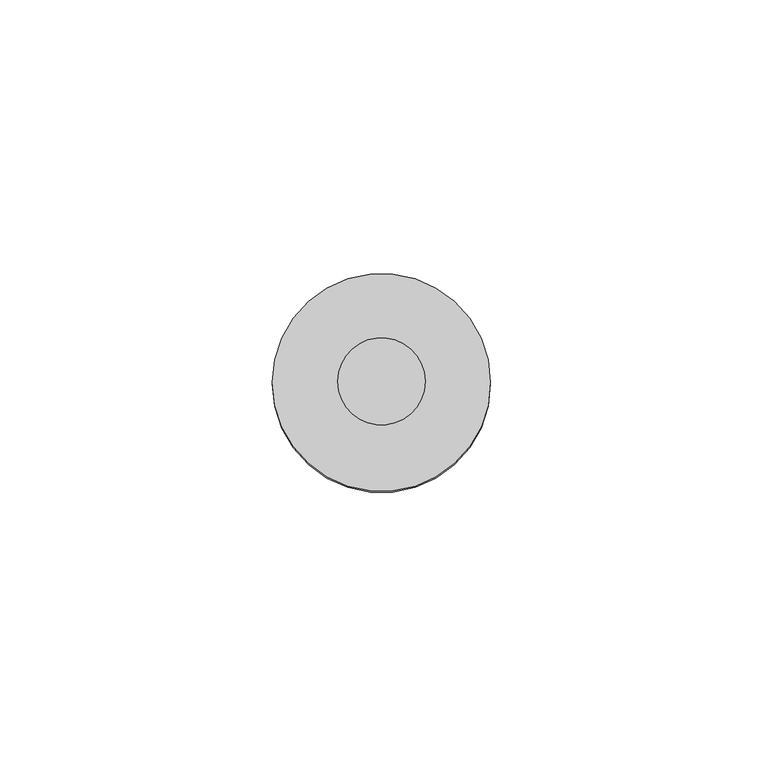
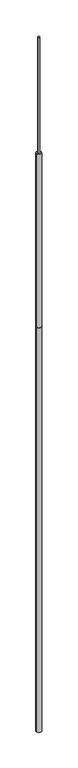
"""IFC4 building model written with IfcOpenShell, lengths in millimetres: proxy geometry, КНС_МачтаИзолированнаяМолниеприемная_DKC : NL6000HV_Нержавеющая сталь_6м."""

from ifc_helpers import new_model, si_unit, point, frame, origin, origin_with_axes, origin_2d, place, context, project, spatial, circle_curve, trimmed, segment, composite_curve, outline, extrude, source, transform, mapped, element, save


def security_devices_16bc7795(model_context):
    return source(origin(), model_context, "Body", "SweptSolid", [
        extrude(outline(composite_curve([segment(trimmed(circle_curve(origin_2d(), 8.0), [point((-8.0, 0.0))], [point((8.0, 0.0))], False, "CARTESIAN"), True, "CONTINUOUS"), segment(trimmed(circle_curve(origin_2d(), 8.0), [point((8.0, 0.0))], [point((-8.0, 0.0))], False, "CARTESIAN"), True, "CONTINUOUS")], self_intersect=False)), frame((0.0, 0.0, 5000.0), z_axis=(0.0, 0.0, 1.0), x_axis=(1.0, 0.0, 0.0)), (0.0, 0.0, 1.0), 1000.0),
        extrude(outline(composite_curve([segment(trimmed(circle_curve(origin_2d(), 20.0), [point((-20.0, 0.0))], [point((20.0, 0.0))], False, "CARTESIAN"), True, "CONTINUOUS"), segment(trimmed(circle_curve(origin_2d(), 20.0), [point((20.0, 0.0))], [point((-20.0, 0.0))], False, "CARTESIAN"), True, "CONTINUOUS")], self_intersect=False)), frame((0.0, 0.0, 3500.0), z_axis=(0.0, 0.0, 1.0), x_axis=(1.0, 0.0, 0.0)), (0.0, 0.0, 1.0), 1500.0),
        extrude(outline(composite_curve([segment(trimmed(circle_curve(origin_2d(), 20.0), [point((-20.0, 0.0))], [point((20.0, 0.0))], False, "CARTESIAN"), True, "CONTINUOUS"), segment(trimmed(circle_curve(origin_2d(), 20.0), [point((20.0, 0.0))], [point((-20.0, 0.0))], False, "CARTESIAN"), True, "CONTINUOUS")], self_intersect=False)), origin_with_axes(), (0.0, 0.0, 1.0), 3500.0),
    ])


if __name__ == "__main__":
    model = new_model("IFC4")
    model_context = context("Model", 3, world=origin())
    ifc_project = project(units=[si_unit("LENGTHUNIT", "METRE", prefix="MILLI")], contexts=[model_context])
    site = spatial("IfcSite", under=ifc_project)
    building = spatial("IfcBuilding", under=site)
    placement = place(None, origin())
    security_devices_shape = security_devices_16bc7795(model_context)
    element("IfcBuildingElementProxy", 1, Name="КНС_МачтаИзолированнаяМолниеприемная_DKC : NL6000HV_Нержавеющая сталь_6м", ObjectType="КНС_МачтаИзолированнаяМолниеприемная_DKC : NL6000HV_Нержавеющая сталь_6м", at=placement, inside=building, context=model_context, shape_type="MappedRepresentation", body=[
        mapped(security_devices_shape, transform((0.0, 0.0, 0.0), x_axis=(1.0, 0.0, 0.0), y_axis=(0.0, 1.0, 0.0), z_axis=(0.0, 0.0, 1.0))),
    ])
    save(model, "model.ifc")
